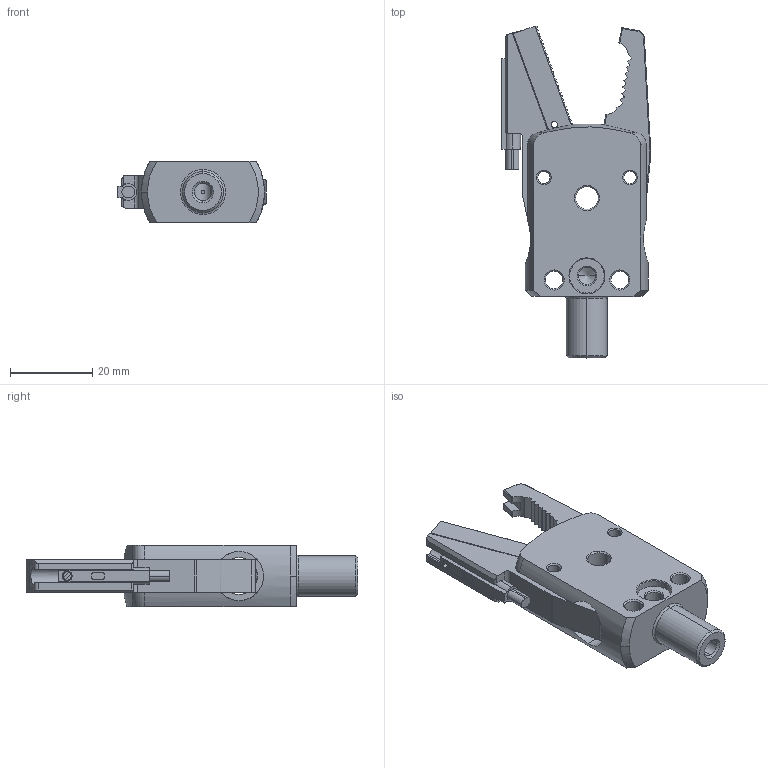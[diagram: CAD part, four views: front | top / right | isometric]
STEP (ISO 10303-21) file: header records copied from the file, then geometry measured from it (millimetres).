
FILE_DESCRIPTION (( 'STEP AP203' ), '1' );
FILE_NAME ('1GRP10J-12-CP.STEP', '2024-06-04T06:16:30', ( '微软用户' ), ( '微软中国' ), 'SwSTEP 2.0', 'SolidWorks 2018', '' );
FILE_SCHEMA (( 'CONFIG_CONTROL_DESIGN' ));
Length unit declared in the file: millimetre
Products named in the file (1): 1GRP10J-12-CP
Bounding box: 36.26 x 80.94 x 15 mm (x, y, z)
Volume: 16096.7 mm3; surface area: 11459 mm2
Topology: 1 solids, 5 shells, 1162 faces, 3372 edges, 2209 vertices
Faces by surface type: plane 957, cylinder 128, cone 61, torus 12, bspline 4
Entity records: 39314 total; most frequent: CARTESIAN_POINT 9333, ORIENTED_EDGE 6728, DIRECTION 5522, EDGE_CURVE 3364, VECTOR 2538, LINE 2538, VERTEX_POINT 2201, AXIS2_PLACEMENT_3D 1492
